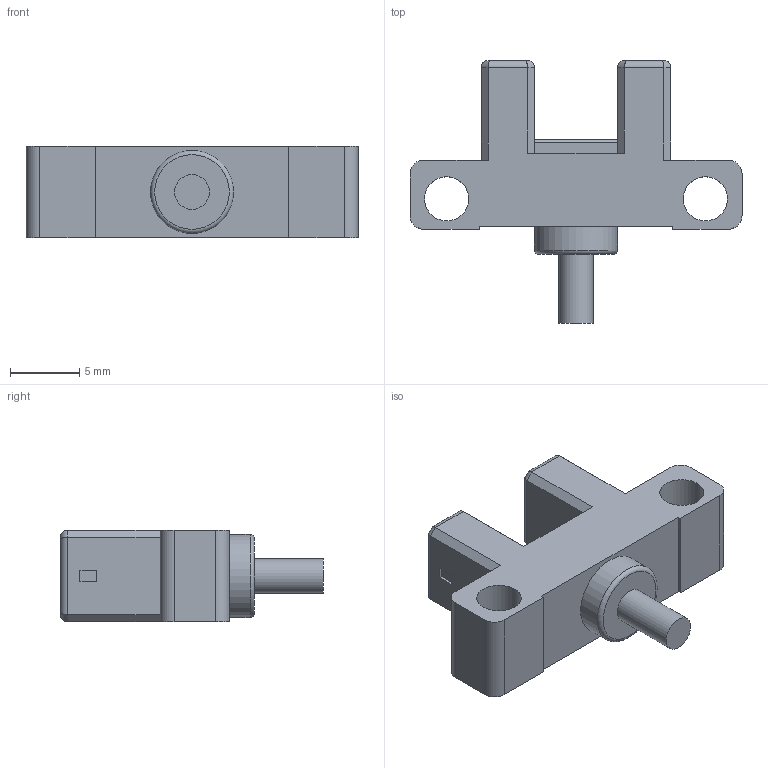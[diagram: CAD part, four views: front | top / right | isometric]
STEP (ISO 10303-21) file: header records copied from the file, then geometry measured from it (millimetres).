
FILE_DESCRIPTION(/* description */ (''),/* implementation_level */ '2;1');
FILE_NAME(/* name */ '3DCAD_GSM02_x_Kx_1000.stp',/* time_stamp */ '2024-07-15T15:13:17+02:00',/* author */ ('CC2'),/* organization */ ('Leuze electronic'),/* preprocessor_version */ 'ST-DEVELOPER v19.4',/* originating_system */ 'SIEMENS PLM Software NX2306.1700',/* authorisation */ '');
FILE_SCHEMA (('AUTOMOTIVE_DESIGN { 1 0 10303 214 3 1 1 1 }'));
Length unit declared in the file: millimetre
Products named in the file (1): 19-103763_00_1-3DCAD_GSM02_x_Kx_1000
Bounding box: 24 x 19 x 6.6 mm (x, y, z)
Volume: 1148.1 mm3; surface area: 1060.8 mm2
Topology: 1 solids, 1 shells, 85 faces, 215 edges, 138 vertices
Faces by surface type: plane 60, cylinder 24, torus 1
Full cylindrical faces by diameter (mm): 2.5 x1, 3.2 x2, 6 x1
Entity records: 2511 total; most frequent: CARTESIAN_POINT 432, ORIENTED_EDGE 418, DIRECTION 414, EDGE_CURVE 209, LINE 176, VECTOR 176, VERTEX_POINT 137, AXIS2_PLACEMENT_3D 119
